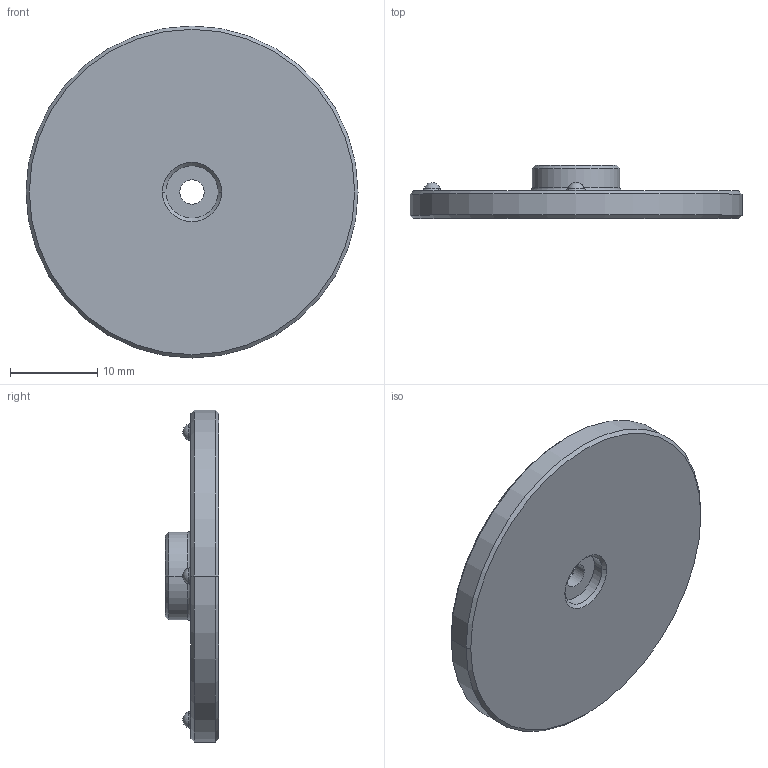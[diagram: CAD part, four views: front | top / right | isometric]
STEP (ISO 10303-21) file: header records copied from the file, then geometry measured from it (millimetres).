
FILE_DESCRIPTION((''),'2;1');
FILE_NAME('SF-1510_003','2016-10-24T',('salvagp'),(''),'CREO PARAMETRIC BY PTC INC, 2016130','CREO PARAMETRIC BY PTC INC, 2016130','');
FILE_SCHEMA(('CONFIG_CONTROL_DESIGN'));
Length unit declared in the file: inch
Products named in the file (1): SF-1510_003
Bounding box: 38.1 x 6.1 x 38.1 mm (x, y, z)
Volume: 3712.3 mm3; surface area: 2786 mm2
Topology: 1 solids, 1 shells, 80 faces, 206 edges, 134 vertices
Faces by surface type: plane 53, cone 8, cylinder 8, torus 8, sphere 3
Entity records: 2460 total; most frequent: CARTESIAN_POINT 420, DIRECTION 412, ORIENTED_EDGE 412, EDGE_CURVE 206, VECTOR 160, LINE 160, VERTEX_POINT 134, AXIS2_PLACEMENT_3D 126
